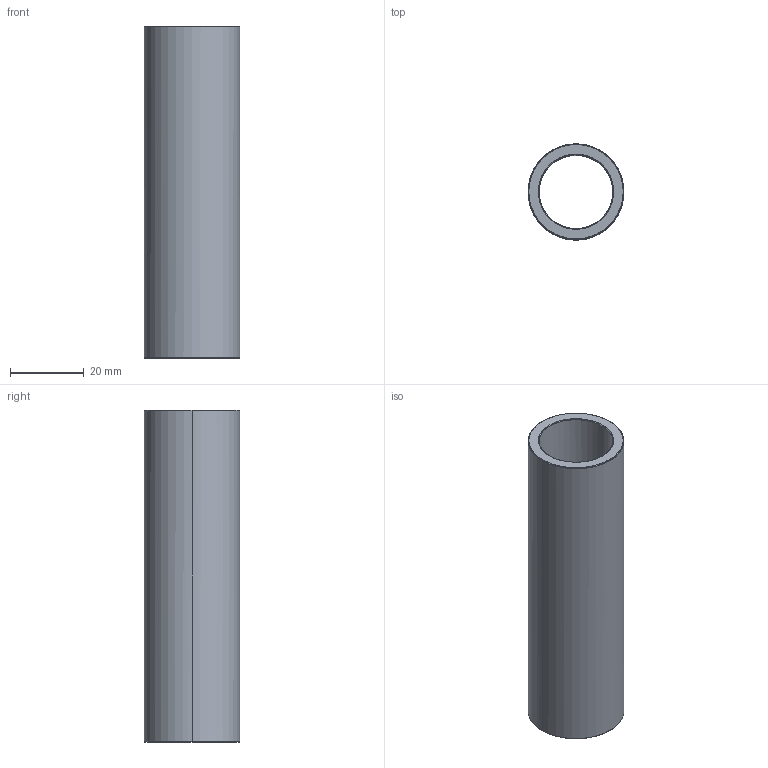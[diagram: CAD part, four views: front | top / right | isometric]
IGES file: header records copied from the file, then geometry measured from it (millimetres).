
Start section: Write IGES format                                    datakit 2008 (c)
Global section: file name: Unknown; native system: DATAKIT Converter; preprocessor: Unknown; author: Unknown; organization: Unknown; date: 950613.180003; units: millimetre
Bounding box: 26 x 26 x 90 mm (x, y, z)
Surface area: 13405.9 mm2 (no closed solid volume)
Topology: 0 solids, 0 shells, 14 faces, 56 edges, 56 vertices
Faces by surface type: revolution 12, bspline 2
